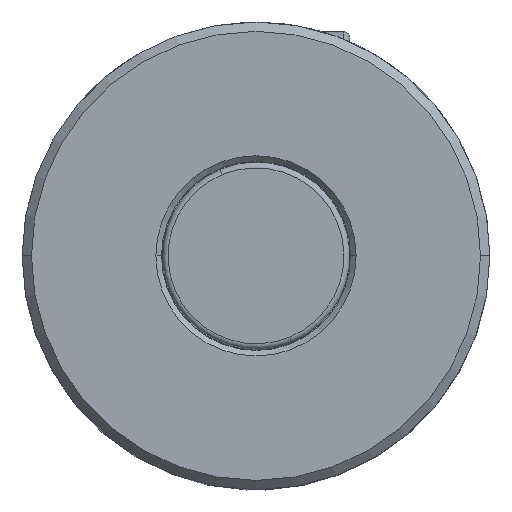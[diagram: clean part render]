
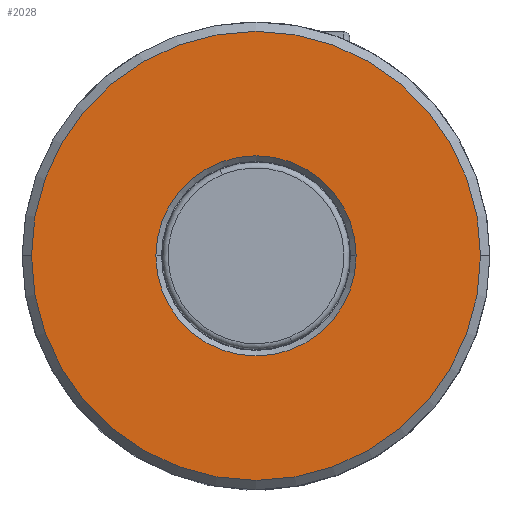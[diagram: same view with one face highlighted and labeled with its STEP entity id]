
A CAD part, top view. The second image highlights one B-rep face of the part: STEP entity #2028.
In plain terms, the highlighted planar face has unit normal (0, 0, 1).
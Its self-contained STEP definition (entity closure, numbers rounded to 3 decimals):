
#34 = CARTESIAN_POINT ( 'NONE',  ( -5.35, 0., 15. ) ) ;
#38 = CARTESIAN_POINT ( 'NONE',  ( 0., -12.5, 15. ) ) ;
#232 = DIRECTION ( 'NONE',  ( 1., 0., 0. ) ) ;
#378 = VERTEX_POINT ( 'NONE', #897 ) ;
#517 = DIRECTION ( 'NONE',  ( 1., 0., 0. ) ) ;
#536 = EDGE_CURVE ( 'NONE', #1223, #1621, #2164, .T. ) ;
#577 = ORIENTED_EDGE ( 'NONE', *, *, #2471, .T. ) ;
#621 = CIRCLE ( 'NONE', #2027, 12. ) ;
#628 = AXIS2_PLACEMENT_3D ( 'NONE', #2489, #1098, #1894 ) ;
#634 = FACE_BOUND ( 'NONE', #2464, .T. ) ;
#713 = ORIENTED_EDGE ( 'NONE', *, *, #1042, .T. ) ;
#715 = CARTESIAN_POINT ( 'NONE',  ( 0., 0., 15. ) ) ;
#721 = DIRECTION ( 'NONE',  ( 1., 0., 0. ) ) ;
#883 = EDGE_LOOP ( 'NONE', ( #577, #713 ) ) ;
#897 = CARTESIAN_POINT ( 'NONE',  ( 12., 0., 15. ) ) ;
#1033 = AXIS2_PLACEMENT_3D ( 'NONE', #2303, #1665, #517 ) ;
#1042 = EDGE_CURVE ( 'NONE', #378, #1627, #621, .T. ) ;
#1085 = CARTESIAN_POINT ( 'NONE',  ( 5.35, 0., 15. ) ) ;
#1098 = DIRECTION ( 'NONE',  ( 0., 0., -1. ) ) ;
#1145 = ORIENTED_EDGE ( 'NONE', *, *, #1660, .T. ) ;
#1205 = PLANE ( 'NONE',  #1842 ) ;
#1223 = VERTEX_POINT ( 'NONE', #34 ) ;
#1404 = DIRECTION ( 'NONE',  ( 0., 0., 1. ) ) ;
#1444 = ORIENTED_EDGE ( 'NONE', *, *, #536, .T. ) ;
#1560 = DIRECTION ( 'NONE',  ( 0., 0., 1. ) ) ;
#1621 = VERTEX_POINT ( 'NONE', #1085 ) ;
#1627 = VERTEX_POINT ( 'NONE', #1691 ) ;
#1660 = EDGE_CURVE ( 'NONE', #1621, #1223, #1996, .T. ) ;
#1665 = DIRECTION ( 'NONE',  ( 0., 0., -1. ) ) ;
#1691 = CARTESIAN_POINT ( 'NONE',  ( -12., 0., 15. ) ) ;
#1755 = DIRECTION ( 'NONE',  ( 0., 0., 1. ) ) ;
#1842 = AXIS2_PLACEMENT_3D ( 'NONE', #38, #1404, #232 ) ;
#1894 = DIRECTION ( 'NONE',  ( 1., 0., 0. ) ) ;
#1951 = CARTESIAN_POINT ( 'NONE',  ( 0., 0., 15. ) ) ;
#1978 = CIRCLE ( 'NONE', #2482, 12. ) ;
#1996 = CIRCLE ( 'NONE', #628, 5.35 ) ;
#2027 = AXIS2_PLACEMENT_3D ( 'NONE', #715, #1560, #2358 ) ;
#2028 = ADVANCED_FACE ( 'NONE', ( #634, #2211 ), #1205, .T. ) ;
#2164 = CIRCLE ( 'NONE', #1033, 5.35 ) ;
#2211 = FACE_OUTER_BOUND ( 'NONE', #883, .T. ) ;
#2303 = CARTESIAN_POINT ( 'NONE',  ( 0., 0., 15. ) ) ;
#2358 = DIRECTION ( 'NONE',  ( 1., 0., 0. ) ) ;
#2464 = EDGE_LOOP ( 'NONE', ( #1145, #1444 ) ) ;
#2471 = EDGE_CURVE ( 'NONE', #1627, #378, #1978, .T. ) ;
#2482 = AXIS2_PLACEMENT_3D ( 'NONE', #1951, #1755, #721 ) ;
#2489 = CARTESIAN_POINT ( 'NONE',  ( 0., 0., 15. ) ) ;
